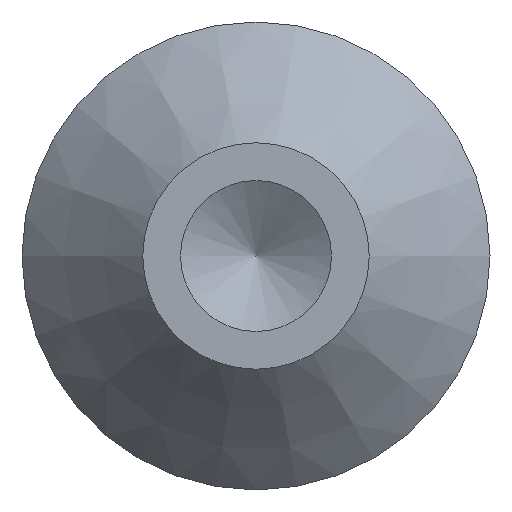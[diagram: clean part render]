
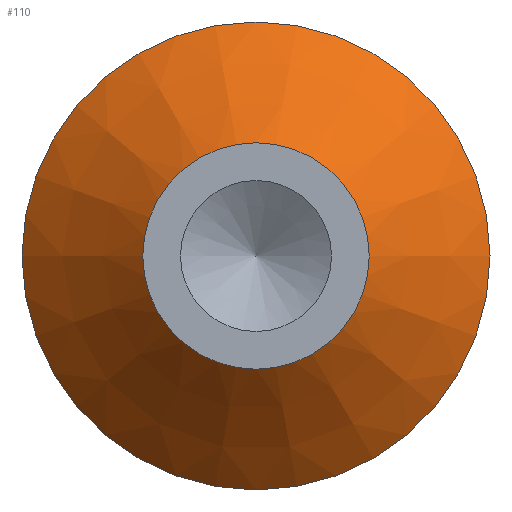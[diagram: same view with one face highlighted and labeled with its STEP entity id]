
A CAD part, left-side view. The second image highlights one B-rep face of the part: STEP entity #110.
In plain terms, the highlighted conical face has half-angle 45 degrees and reference radius 0.584 mm.
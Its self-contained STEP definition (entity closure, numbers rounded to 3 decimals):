
#24=FACE_BOUND($,#49,.T.);
#36=FACE_OUTER_BOUND($,#48,.T.);
#48=EDGE_LOOP($,(#93));
#49=EDGE_LOOP($,(#94));
#61=CIRCLE($,#128,0.381);
#63=CIRCLE($,#131,0.787);
#70=VERTEX_POINT($,#193);
#72=VERTEX_POINT($,#198);
#79=EDGE_CURVE($,#70,#70,#61,.T.);
#81=EDGE_CURVE($,#72,#72,#63,.T.);
#93=ORIENTED_EDGE($,*,*,#81,.F.);
#94=ORIENTED_EDGE($,*,*,#79,.T.);
#103=CONICAL_SURFACE($,#130,0.584,45.);
#110=ADVANCED_FACE($,(#36,#24),#103,.T.);
#128=AXIS2_PLACEMENT_3D($,#194,#160,#161);
#130=AXIS2_PLACEMENT_3D($,#197,#164,#165);
#131=AXIS2_PLACEMENT_3D($,#199,#166,#167);
#160=DIRECTION('center_axis',(1.,0.,0.));
#161=DIRECTION('ref_axis',(0.,1.,0.));
#164=DIRECTION('center_axis',(1.,0.,0.));
#165=DIRECTION('ref_axis',(0.,1.,0.));
#166=DIRECTION('center_axis',(1.,0.,0.));
#167=DIRECTION('ref_axis',(0.,1.,0.));
#193=CARTESIAN_POINT('',(1.19,0.381,0.));
#194=CARTESIAN_POINT('Origin',(1.19,0.,0.));
#197=CARTESIAN_POINT('Origin',(1.393,0.,
0.));
#198=CARTESIAN_POINT('',(1.596,0.787,0.));
#199=CARTESIAN_POINT('Origin',(1.596,0.,0.));
